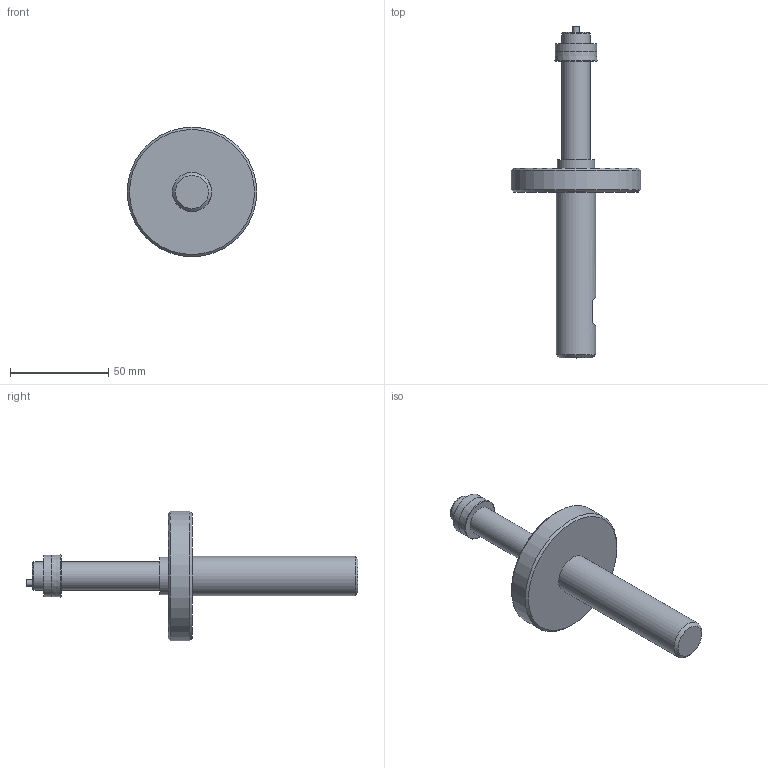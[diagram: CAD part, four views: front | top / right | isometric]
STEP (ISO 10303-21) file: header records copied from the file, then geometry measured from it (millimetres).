
FILE_DESCRIPTION (( 'STEP AP203' ), '1' );
FILE_NAME ('AF56-SIMPLE - AF56-14.50M-21.50M.step', '2025-01-22T13:31:49', ( '' ), ( '' ), 'SwSTEP 2.0', 'SolidWorks 2024', '' );
FILE_SCHEMA (( 'CONFIG_CONTROL_DESIGN' ));
Length unit declared in the file: inch
Products named in the file (1): AF56-SIMPLE - AF56-14.50M-21.50M
Bounding box: 66.04 x 169.29 x 66.04 mm (x, y, z)
Volume: 81301.7 mm3; surface area: 18131.1 mm2
Topology: 1 solids, 1 shells, 24 faces, 40 edges, 25 vertices
Faces by surface type: plane 11, cylinder 7, cone 5, torus 1
Full cylindrical faces by diameter (mm): 3.175 x1, 14.376 x2, 19.05 x1, 20 x1, 20.994 x1, 66.04 x1
Entity records: 569 total; most frequent: DIRECTION 94, CARTESIAN_POINT 81, ORIENTED_EDGE 52, AXIS2_PLACEMENT_3D 45, EDGE_LOOP 44, FACE_OUTER_BOUND 32, EDGE_CURVE 26, ADVANCED_FACE 24
